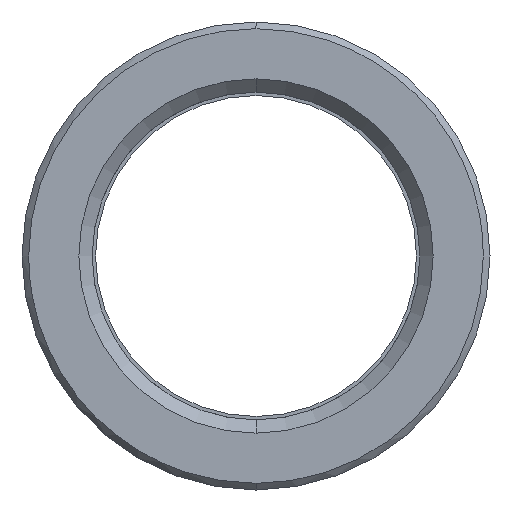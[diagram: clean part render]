
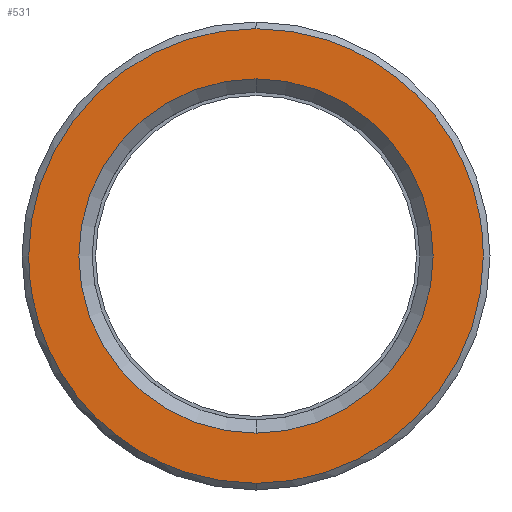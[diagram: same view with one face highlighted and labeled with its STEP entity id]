
A CAD part, left-side view. The second image highlights one B-rep face of the part: STEP entity #531.
In plain terms, the highlighted planar face has unit normal (-1, 0, 0).
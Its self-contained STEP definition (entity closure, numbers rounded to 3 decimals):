
#311=CARTESIAN_POINT('Axis2P3D Location',(0.,0.,0.)) ;
#315=CARTESIAN_POINT('Vertex',(0.,13.25,0.)) ;
#317=CARTESIAN_POINT('Vertex',(0.,0.,13.25)) ;
#320=CARTESIAN_POINT('Axis2P3D Location',(0.,0.,0.)) ;
#324=CARTESIAN_POINT('Vertex',(0.,0.,-13.25)) ;
#351=CARTESIAN_POINT('Axis2P3D Location',(0.,0.,0.)) ;
#355=CARTESIAN_POINT('Vertex',(0.,-13.25,0.)) ;
#358=CARTESIAN_POINT('Axis2P3D Location',(0.,0.,0.)) ;
#438=CARTESIAN_POINT('Axis2P3D Location',(0.,17.,0.)) ;
#444=CARTESIAN_POINT('Control Point',(0.,0.,-17.)) ;
#445=CARTESIAN_POINT('Control Point',(0.,1.123,-17.)) ;
#446=CARTESIAN_POINT('Control Point',(0.,2.246,-16.907)) ;
#447=CARTESIAN_POINT('Control Point',(0.,3.359,-16.722)) ;
#448=CARTESIAN_POINT('Control Point',(0.,6.023,-16.047)) ;
#449=CARTESIAN_POINT('Control Point',(0.,8.508,-14.851)) ;
#450=CARTESIAN_POINT('Control Point',(0.,9.884,-13.974)) ;
#451=CARTESIAN_POINT('Control Point',(0.,12.399,-11.909)) ;
#452=CARTESIAN_POINT('Control Point',(0.,14.361,-9.312)) ;
#453=CARTESIAN_POINT('Control Point',(0.,15.182,-7.903)) ;
#454=CARTESIAN_POINT('Control Point',(0.,16.222,-5.498)) ;
#455=CARTESIAN_POINT('Control Point',(0.,16.786,-2.951)) ;
#456=CARTESIAN_POINT('Control Point',(0.,16.929,-1.972)) ;
#457=CARTESIAN_POINT('Control Point',(0.,17.,-0.986)) ;
#458=CARTESIAN_POINT('Control Point',(0.,17.,0.)) ;
#459=CARTESIAN_POINT('Vertex',(0.,0.,-17.)) ;
#461=CARTESIAN_POINT('Vertex',(0.,17.,0.)) ;
#465=CARTESIAN_POINT('Control Point',(0.,-17.,0.)) ;
#466=CARTESIAN_POINT('Control Point',(0.,-17.,-1.616)) ;
#467=CARTESIAN_POINT('Control Point',(0.,-16.808,-3.232)) ;
#468=CARTESIAN_POINT('Control Point',(0.,-16.424,-4.817)) ;
#469=CARTESIAN_POINT('Control Point',(0.,-15.287,-7.867)) ;
#470=CARTESIAN_POINT('Control Point',(0.,-13.466,-10.565)) ;
#471=CARTESIAN_POINT('Control Point',(0.,-12.399,-11.799)) ;
#472=CARTESIAN_POINT('Control Point',(0.,-9.993,-13.99)) ;
#473=CARTESIAN_POINT('Control Point',(0.,-7.14,-15.556)) ;
#474=CARTESIAN_POINT('Control Point',(0.,-5.626,-16.165)) ;
#475=CARTESIAN_POINT('Control Point',(0.,-3.576,-16.717)) ;
#476=CARTESIAN_POINT('Control Point',(0.,-1.478,-16.946)) ;
#477=CARTESIAN_POINT('Control Point',(0.,-0.986,-16.982)) ;
#478=CARTESIAN_POINT('Control Point',(0.,-0.493,-17.)) ;
#479=CARTESIAN_POINT('Control Point',(0.,0.,-17.)) ;
#480=CARTESIAN_POINT('Vertex',(0.,-17.,0.)) ;
#484=CARTESIAN_POINT('Control Point',(0.,0.,17.)) ;
#485=CARTESIAN_POINT('Control Point',(0.,-1.123,17.)) ;
#486=CARTESIAN_POINT('Control Point',(0.,-2.246,16.907)) ;
#487=CARTESIAN_POINT('Control Point',(0.,-3.359,16.722)) ;
#488=CARTESIAN_POINT('Control Point',(0.,-6.023,16.047)) ;
#489=CARTESIAN_POINT('Control Point',(0.,-8.508,14.851)) ;
#490=CARTESIAN_POINT('Control Point',(0.,-9.884,13.974)) ;
#491=CARTESIAN_POINT('Control Point',(0.,-12.399,11.909)) ;
#492=CARTESIAN_POINT('Control Point',(0.,-14.361,9.312)) ;
#493=CARTESIAN_POINT('Control Point',(0.,-15.182,7.903)) ;
#494=CARTESIAN_POINT('Control Point',(0.,-16.222,5.498)) ;
#495=CARTESIAN_POINT('Control Point',(0.,-16.786,2.951)) ;
#496=CARTESIAN_POINT('Control Point',(0.,-16.929,1.972)) ;
#497=CARTESIAN_POINT('Control Point',(0.,-17.,0.986)) ;
#498=CARTESIAN_POINT('Control Point',(0.,-17.,0.)) ;
#499=CARTESIAN_POINT('Vertex',(0.,0.,17.)) ;
#503=CARTESIAN_POINT('Control Point',(0.,17.,0.)) ;
#504=CARTESIAN_POINT('Control Point',(0.,17.,1.616)) ;
#505=CARTESIAN_POINT('Control Point',(0.,16.808,3.232)) ;
#506=CARTESIAN_POINT('Control Point',(0.,16.424,4.817)) ;
#507=CARTESIAN_POINT('Control Point',(0.,15.287,7.867)) ;
#508=CARTESIAN_POINT('Control Point',(0.,13.466,10.565)) ;
#509=CARTESIAN_POINT('Control Point',(0.,12.399,11.799)) ;
#510=CARTESIAN_POINT('Control Point',(0.,9.993,13.99)) ;
#511=CARTESIAN_POINT('Control Point',(0.,7.14,15.556)) ;
#512=CARTESIAN_POINT('Control Point',(0.,5.626,16.165)) ;
#513=CARTESIAN_POINT('Control Point',(0.,3.576,16.717)) ;
#514=CARTESIAN_POINT('Control Point',(0.,1.478,16.946)) ;
#515=CARTESIAN_POINT('Control Point',(0.,0.986,16.982)) ;
#516=CARTESIAN_POINT('Control Point',(0.,0.493,17.)) ;
#517=CARTESIAN_POINT('Control Point',(0.,0.,17.)) ;
#312=DIRECTION('Axis2P3D Direction',(-1.,0.,0.)) ;
#321=DIRECTION('Axis2P3D Direction',(-1.,0.,0.)) ;
#352=DIRECTION('Axis2P3D Direction',(-1.,0.,0.)) ;
#359=DIRECTION('Axis2P3D Direction',(-1.,0.,0.)) ;
#439=DIRECTION('Axis2P3D Direction',(-1.,0.,0.)) ;
#440=DIRECTION('Axis2P3D XDirection',(0.,0.,1.)) ;
#313=AXIS2_PLACEMENT_3D('Circle Axis2P3D',#311,#312,$) ;
#322=AXIS2_PLACEMENT_3D('Circle Axis2P3D',#320,#321,$) ;
#353=AXIS2_PLACEMENT_3D('Circle Axis2P3D',#351,#352,$) ;
#360=AXIS2_PLACEMENT_3D('Circle Axis2P3D',#358,#359,$) ;
#441=AXIS2_PLACEMENT_3D('Plane Axis2P3D',#438,#439,#440) ;
#520=ORIENTED_EDGE('',*,*,#463,.F.) ;
#521=ORIENTED_EDGE('',*,*,#482,.F.) ;
#522=ORIENTED_EDGE('',*,*,#501,.F.) ;
#523=ORIENTED_EDGE('',*,*,#518,.F.) ;
#526=ORIENTED_EDGE('',*,*,#319,.T.) ;
#527=ORIENTED_EDGE('',*,*,#362,.T.) ;
#528=ORIENTED_EDGE('',*,*,#357,.T.) ;
#529=ORIENTED_EDGE('',*,*,#326,.T.) ;
#530=FACE_BOUND('',#525,.T.) ;
#531=ADVANCED_FACE('553-24X96',(#524,#530),#442,.T.) ;
#443=B_SPLINE_CURVE_WITH_KNOTS('',5,(#444,#445,#446,#447,#448,#449,#450,#451,#452,#453,#454,#455,#456,#457,#458),.UNSPECIFIED.,.F.,.U.,(6,3,3,3,6),(37.764,45.705,57.131,68.557,75.528),.UNSPECIFIED.) ;
#464=B_SPLINE_CURVE_WITH_KNOTS('',5,(#465,#466,#467,#468,#469,#470,#471,#472,#473,#474,#475,#476,#477,#478,#479),.UNSPECIFIED.,.F.,.U.,(6,3,3,3,6),(0.,11.426,22.852,34.279,37.764),.UNSPECIFIED.) ;
#483=B_SPLINE_CURVE_WITH_KNOTS('',5,(#484,#485,#486,#487,#488,#489,#490,#491,#492,#493,#494,#495,#496,#497,#498),.UNSPECIFIED.,.F.,.U.,(6,3,3,3,6),(37.764,45.705,57.131,68.557,75.528),.UNSPECIFIED.) ;
#502=B_SPLINE_CURVE_WITH_KNOTS('',5,(#503,#504,#505,#506,#507,#508,#509,#510,#511,#512,#513,#514,#515,#516,#517),.UNSPECIFIED.,.F.,.U.,(6,3,3,3,6),(0.,11.426,22.852,34.279,37.764),.UNSPECIFIED.) ;
#314=CIRCLE('generated circle',#313,13.25) ;
#323=CIRCLE('generated circle',#322,13.25) ;
#354=CIRCLE('generated circle',#353,13.25) ;
#361=CIRCLE('generated circle',#360,13.25) ;
#319=EDGE_CURVE('',#316,#318,#314,.F.) ;
#326=EDGE_CURVE('',#325,#316,#323,.F.) ;
#357=EDGE_CURVE('',#356,#325,#354,.F.) ;
#362=EDGE_CURVE('',#318,#356,#361,.F.) ;
#463=EDGE_CURVE('',#460,#462,#443,.T.) ;
#482=EDGE_CURVE('',#481,#460,#464,.T.) ;
#501=EDGE_CURVE('',#500,#481,#483,.T.) ;
#518=EDGE_CURVE('',#462,#500,#502,.T.) ;
#519=EDGE_LOOP('',(#520,#521,#522,#523)) ;
#525=EDGE_LOOP('',(#526,#527,#528,#529)) ;
#524=FACE_OUTER_BOUND('',#519,.T.) ;
#442=PLANE('Plane',#441) ;
#316=VERTEX_POINT('',#315) ;
#318=VERTEX_POINT('',#317) ;
#325=VERTEX_POINT('',#324) ;
#356=VERTEX_POINT('',#355) ;
#460=VERTEX_POINT('',#459) ;
#462=VERTEX_POINT('',#461) ;
#481=VERTEX_POINT('',#480) ;
#500=VERTEX_POINT('',#499) ;
